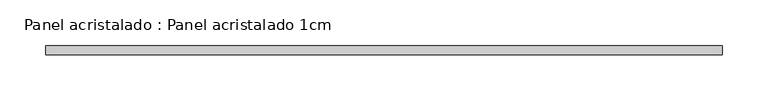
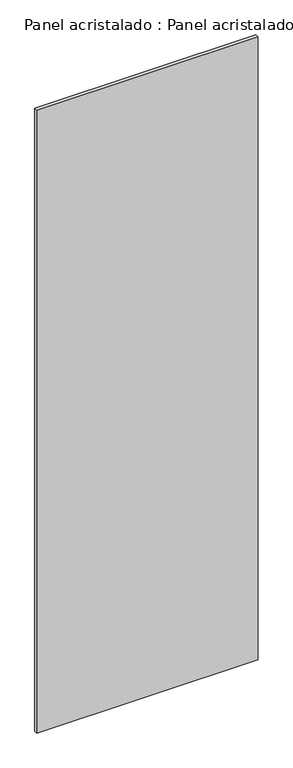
"""IFC4 building model written with IfcOpenShell, lengths in millimetres: plate geometry, Panel acristalado : Panel acristalado 1cm."""

from ifc_helpers import new_model, si_unit, origin, origin_with_axes, place, context, project, spatial, polyline, outline, extrude, source, transform, mapped, element, save


def panel_acristalado_panel_acristalado_1cm_65917553(model_context):
    return source(origin(), model_context, "Body", "SweptSolid", [
        extrude(outline(polyline([(370.0, 20.0), (-370.0, 20.0), (-370.0, 30.0), (370.0, 30.0), (370.0, 20.0)])), origin_with_axes(), (0.0, 0.0, 1.0), 2200.0),
    ])


if __name__ == "__main__":
    model = new_model("IFC4")
    model_context = context("Model", 3, world=origin())
    ifc_project = project(units=[si_unit("LENGTHUNIT", "METRE", prefix="MILLI")], contexts=[model_context])
    site = spatial("IfcSite", under=ifc_project)
    building = spatial("IfcBuilding", under=site)
    placement = place(None, origin())
    panel_acristalado_panel_acristalado_1cm_shape = panel_acristalado_panel_acristalado_1cm_65917553(model_context)
    element("IfcPlate", 1, ObjectType="Panel acristalado : Panel acristalado 1cm", at=placement, inside=building, context=model_context, shape_type="MappedRepresentation", body=[
        mapped(panel_acristalado_panel_acristalado_1cm_shape, transform((0.0, 0.0, 0.0), x_axis=(1.0, 0.0, 0.0), y_axis=(0.0, 1.0, 0.0), z_axis=(0.0, 0.0, 1.0))),
    ])
    save(model, "model.ifc")
